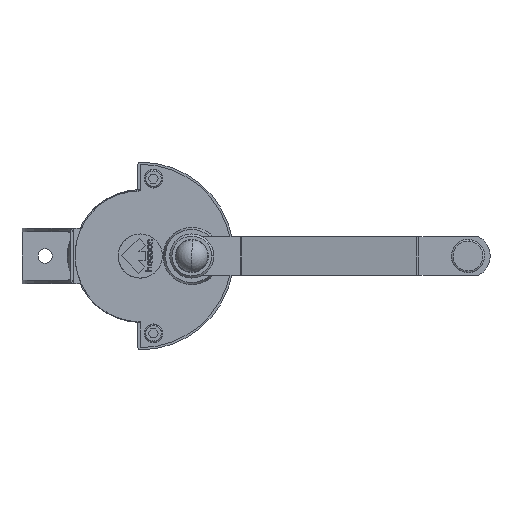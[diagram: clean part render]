
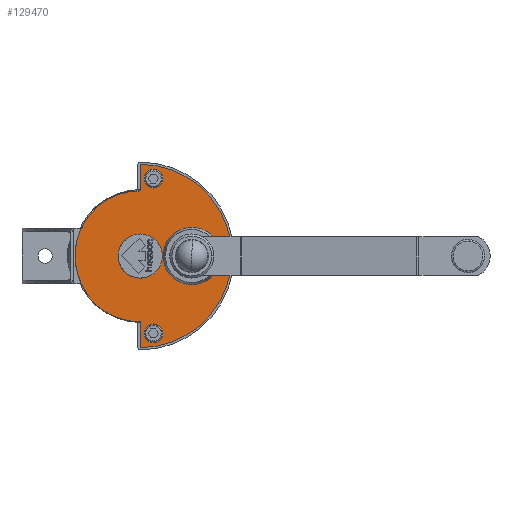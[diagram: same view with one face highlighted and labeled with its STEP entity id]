
A CAD part, front view. The second image highlights one B-rep face of the part: STEP entity #129470.
In plain terms, the highlighted planar face has unit normal (0, -1, 0) as drawn and (0, 0, 1) by its records, which use the part's own axes.
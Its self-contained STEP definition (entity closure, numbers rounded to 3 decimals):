
#22640=CARTESIAN_POINT('',(110.464,-101.433,59.)
);
#22650=VERTEX_POINT('',#22640);
#22680=CARTESIAN_POINT('',(51.464,-101.433,
59.));
#22690=DIRECTION('',(0.,0.,-1.));
#22700=DIRECTION('',(-1.,0.,0.));
#22710=AXIS2_PLACEMENT_3D('',#22680,#22690,#22700);
#22720=CIRCLE('',#22710,59.);
#22730=CARTESIAN_POINT('',(18.481,-52.514,
59.));
#22740=VERTEX_POINT('',#22730);
#22750=EDGE_CURVE('',#22740,#22650,#22720,.T.);
#31210=CARTESIAN_POINT('',(112.964,-113.433,59.)
);
#31220=VERTEX_POINT('',#31210);
#31380=CARTESIAN_POINT('',(129.964,-113.433,59.)
);
#31390=VERTEX_POINT('',#31380);
#31420=CARTESIAN_POINT('',(121.464,-113.433,59.)
);
#31430=DIRECTION('',(0.,0.,1.));
#31440=DIRECTION('',(1.,0.,0.));
#31450=AXIS2_PLACEMENT_3D('',#31420,#31430,#31440);
#31460=CIRCLE('',#31450,8.5);
#31470=EDGE_CURVE('',#31220,#31390,#31460,.T.);
#31960=CARTESIAN_POINT('',(51.464,-122.183,
59.));
#31970=VERTEX_POINT('',#31960);
#32130=CARTESIAN_POINT('',(51.464,-174.183,
59.));
#32140=VERTEX_POINT('',#32130);
#32170=CARTESIAN_POINT('',(51.464,-148.183,
59.));
#32180=DIRECTION('',(0.,0.,1.));
#32190=DIRECTION('',(0.,-1.,0.));
#32200=AXIS2_PLACEMENT_3D('',#32170,#32180,#32190);
#32210=CIRCLE('',#32200,26.);
#32220=EDGE_CURVE('',#31970,#32140,#32210,.T.);
#32680=CARTESIAN_POINT('',(-27.036,-113.433,
59.));
#32690=VERTEX_POINT('',#32680);
#32850=CARTESIAN_POINT('',(-10.036,-113.433,
59.));
#32860=VERTEX_POINT('',#32850);
#32890=CARTESIAN_POINT('',(-18.536,-113.433,
59.));
#32900=DIRECTION('',(0.,0.,-1.));
#32910=DIRECTION('',(-1.,0.,0.));
#32920=AXIS2_PLACEMENT_3D('',#32890,#32900,#32910);
#32930=CIRCLE('',#32920,8.5);
#32940=EDGE_CURVE('',#32860,#32690,#32930,.T.);
#33410=CARTESIAN_POINT('',(-31.536,-101.433,
59.));
#33420=VERTEX_POINT('',#33410);
#33450=CARTESIAN_POINT('',(51.464,-101.433,
59.));
#33460=DIRECTION('',(0.,0.,-1.));
#33470=DIRECTION('',(-1.,0.,0.));
#33480=AXIS2_PLACEMENT_3D('',#33450,#33460,#33470);
#33490=CIRCLE('',#33480,83.);
#33500=CARTESIAN_POINT('',(134.464,-101.433,59.)
);
#33510=VERTEX_POINT('',#33500);
#33520=EDGE_CURVE('',#33510,#33420,#33490,.T.);
#33780=CARTESIAN_POINT('',(0.,-101.433,59.));
#33790=DIRECTION('',(-1.,0.,0.));
#33800=VECTOR('',#33790,1.);
#33810=LINE('',#33780,#33800);
#33820=EDGE_CURVE('',#33510,#22650,#33810,.T.);
#98840=CARTESIAN_POINT('',(33.974,-111.133,
59.));
#98850=VERTEX_POINT('',#98840);
#98880=CARTESIAN_POINT('',(51.464,-101.433,
59.));
#98890=DIRECTION('',(0.,0.,-1.));
#98900=DIRECTION('',(0.875,0.485,0.));
#98910=AXIS2_PLACEMENT_3D('',#98880,#98890,#98900);
#98920=CIRCLE('',#98910,20.);
#98930=CARTESIAN_POINT('',(31.464,-101.433,
59.));
#98940=VERTEX_POINT('',#98930);
#98950=EDGE_CURVE('',#98850,#98940,#98920,.T.);
#98970=CARTESIAN_POINT('',(68.955,-91.734,
59.));
#98980=VERTEX_POINT('',#98970);
#98990=EDGE_CURVE('',#98940,#98980,#98920,.T.);
#118410=CARTESIAN_POINT('',(-8.036,-101.433,
59.));
#118420=VERTEX_POINT('',#118410);
#118450=EDGE_CURVE('',#118420,#33420,#33810,.T.);
#127940=CARTESIAN_POINT('',(-20.059,-13.973,
59.));
#127950=DIRECTION('',(-0.707,0.707,0.));
#127960=VECTOR('',#127950,1.);
#127970=LINE('',#127940,#127960);
#127980=CARTESIAN_POINT('',(18.121,-52.154,
59.));
#127990=VERTEX_POINT('',#127980);
#128000=EDGE_CURVE('',#22740,#127990,#127970,.T.);
#129070=CARTESIAN_POINT('',(-7.786,-101.433,
59.));
#129080=DIRECTION('',(0.,0.,1.));
#129090=DIRECTION('',(-1.,0.,0.));
#129100=AXIS2_PLACEMENT_3D('',#129070,#129080,#129090);
#129110=PLANE('',#129100);
#129120=EDGE_CURVE('',#32690,#32860,#32930,.T.);
#129130=ORIENTED_EDGE('',*,*,#129120,.T.);
#129140=ORIENTED_EDGE('',*,*,#32940,.T.);
#129150=EDGE_LOOP('',(#129140,#129130));
#129160=FACE_BOUND('',#129150,.T.);
#129170=EDGE_CURVE('',#32140,#31970,#32210,.T.);
#129180=ORIENTED_EDGE('',*,*,#129170,.F.);
#129190=ORIENTED_EDGE('',*,*,#32220,.F.);
#129200=EDGE_LOOP('',(#129190,#129180));
#129210=FACE_BOUND('',#129200,.T.);
#129220=EDGE_CURVE('',#98980,#98850,#98920,.T.);
#129230=ORIENTED_EDGE('',*,*,#129220,.T.);
#129240=ORIENTED_EDGE('',*,*,#98990,.T.);
#129250=ORIENTED_EDGE('',*,*,#98950,.T.);
#129260=EDGE_LOOP('',(#129250,#129240,#129230));
#129270=FACE_BOUND('',#129260,.T.);
#129280=EDGE_CURVE('',#31390,#31220,#31460,.T.);
#129290=ORIENTED_EDGE('',*,*,#129280,.F.);
#129300=ORIENTED_EDGE('',*,*,#31470,.F.);
#129310=EDGE_LOOP('',(#129300,#129290));
#129320=FACE_BOUND('',#129310,.T.);
#129330=CARTESIAN_POINT('',(51.464,-101.433,
59.));
#129340=DIRECTION('',(-0.,-0.,-1.));
#129350=DIRECTION('',(-1.,0.,0.));
#129360=AXIS2_PLACEMENT_3D('',#129330,#129340,#129350);
#129370=CIRCLE('',#129360,59.5);
#129380=EDGE_CURVE('',#118420,#127990,#129370,.T.);
#129390=ORIENTED_EDGE('',*,*,#129380,.F.);
#129400=ORIENTED_EDGE('',*,*,#128000,.T.);
#129410=ORIENTED_EDGE('',*,*,#22750,.F.);
#129420=ORIENTED_EDGE('',*,*,#33820,.T.);
#129430=ORIENTED_EDGE('',*,*,#33520,.F.);
#129440=ORIENTED_EDGE('',*,*,#118450,.T.);
#129450=EDGE_LOOP('',(#129440,#129430,#129420,#129410,#129400,#129390));
#129460=FACE_OUTER_BOUND('',#129450,.T.);
#129470=ADVANCED_FACE('',(#129160,#129210,#129270,#129320,#129460),
#129110,.T.);
